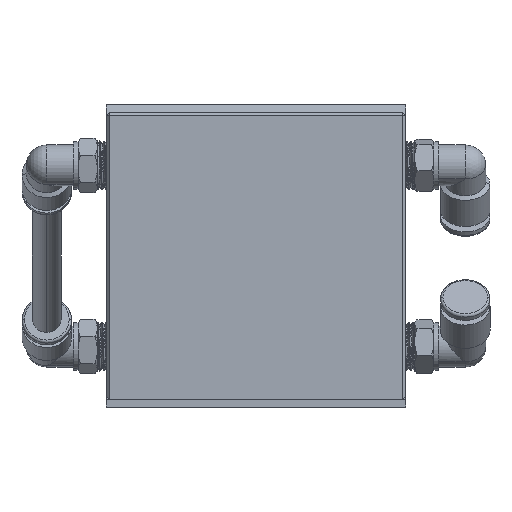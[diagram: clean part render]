
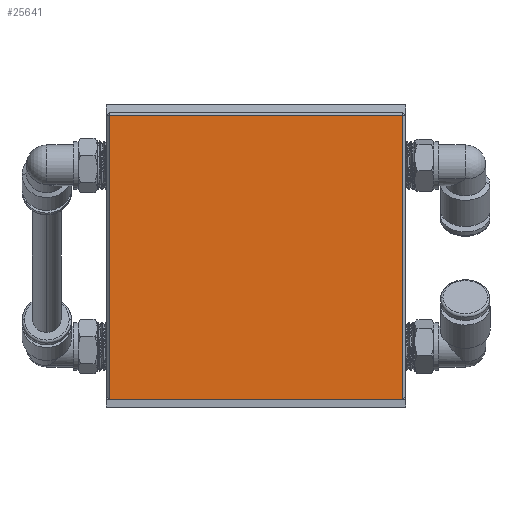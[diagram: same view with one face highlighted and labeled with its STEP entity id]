
A CAD part, front view. The second image highlights one B-rep face of the part: STEP entity #25641.
In plain terms, the highlighted planar face has unit normal (0, -1, 0).
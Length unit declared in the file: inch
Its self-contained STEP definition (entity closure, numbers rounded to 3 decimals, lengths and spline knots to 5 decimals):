
#143 = CARTESIAN_POINT ( 'NONE',  ( 1.24, -2.3125, 1.1625 ) ) ;
#373 = PLANE ( 'NONE',  #11129 ) ;
#1090 = ORIENTED_EDGE ( 'NONE', *, *, #22709, .T. ) ;
#1155 = CARTESIAN_POINT ( 'NONE',  ( 1.24, -2.3125, -1.1875 ) ) ;
#1487 = VECTOR ( 'NONE', #17925, 39.37008 ) ;
#2351 = DIRECTION ( 'NONE',  ( 0., 0., -1. ) ) ;
#2574 = DIRECTION ( 'NONE',  ( 1., 0., 0. ) ) ;
#2722 = ORIENTED_EDGE ( 'NONE', *, *, #25353, .F. ) ;
#2733 = VERTEX_POINT ( 'NONE', #21137 ) ;
#3835 = LINE ( 'NONE', #12870, #11097 ) ;
#4127 = LINE ( 'NONE', #16888, #6725 ) ;
#5361 = EDGE_CURVE ( 'Defeatured_0_1+Defeatured_0_5+Defeatured_0_194+Defeatured_0_8', #23907, #2733, #4127, .T. ) ;
#6076 = LINE ( 'NONE', #143, #21900 ) ;
#6317 = EDGE_CURVE ( 'Defeatured_0_1+Defeatured_0_8+Defeatured_0_5+Defeatured_0_10', #2733, #7180, #6076, .T. ) ;
#6725 = VECTOR ( 'NONE', #21120, 39.37008 ) ;
#7087 = LINE ( 'NONE', #1155, #1487 ) ;
#7180 = VERTEX_POINT ( 'NONE', #23989 ) ;
#8993 = EDGE_LOOP ( 'NONE', ( #19499, #1090, #2722, #9676 ) ) ;
#9676 = ORIENTED_EDGE ( 'NONE', *, *, #5361, .T. ) ;
#10551 = DIRECTION ( 'NONE',  ( -1., 0., 0. ) ) ;
#11072 = FACE_OUTER_BOUND ( 'NONE', #8993, .T. ) ;
#11097 = VECTOR ( 'NONE', #2351, 39.37008 ) ;
#11129 = AXIS2_PLACEMENT_3D ( 'NONE', #25836, #25937, #2574 ) ;
#11836 = CARTESIAN_POINT ( 'NONE',  ( -1.215, -2.3125, -1.1875 ) ) ;
#12870 = CARTESIAN_POINT ( 'NONE',  ( -1.215, -2.3125, -1.1875 ) ) ;
#16888 = CARTESIAN_POINT ( 'NONE',  ( 1.215, -2.3125, 1.1875 ) ) ;
#17925 = DIRECTION ( 'NONE',  ( -1., 0., 0. ) ) ;
#19499 = ORIENTED_EDGE ( 'NONE', *, *, #6317, .T. ) ;
#20401 = VERTEX_POINT ( 'NONE', #11836 ) ;
#21120 = DIRECTION ( 'NONE',  ( 0., 0., 1. ) ) ;
#21137 = CARTESIAN_POINT ( 'NONE',  ( 1.215, -2.3125, 1.1625 ) ) ;
#21900 = VECTOR ( 'NONE', #10551, 39.37008 ) ;
#22709 = EDGE_CURVE ( 'Defeatured_0_1+Defeatured_0_10+Defeatured_0_8+Defeatured_0_194', #7180, #20401, #3835, .T. ) ;
#23907 = VERTEX_POINT ( 'NONE', #25825 ) ;
#23989 = CARTESIAN_POINT ( 'NONE',  ( -1.215, -2.3125, 1.1625 ) ) ;
#25353 = EDGE_CURVE ( 'Defeatured_0_194+Defeatured_0_1+Defeatured_0_181+Defeatured_0_183', #23907, #20401, #7087, .T. ) ;
#25641 = ADVANCED_FACE ( 'Defeatured_0_1', ( #11072 ), #373, .F. ) ;
#25825 = CARTESIAN_POINT ( 'NONE',  ( 1.215, -2.3125, -1.1875 ) ) ;
#25836 = CARTESIAN_POINT ( 'NONE',  ( 1.24, -2.3125, 1.1875 ) ) ;
#25937 = DIRECTION ( 'NONE',  ( 0., 1., 0. ) ) ;
